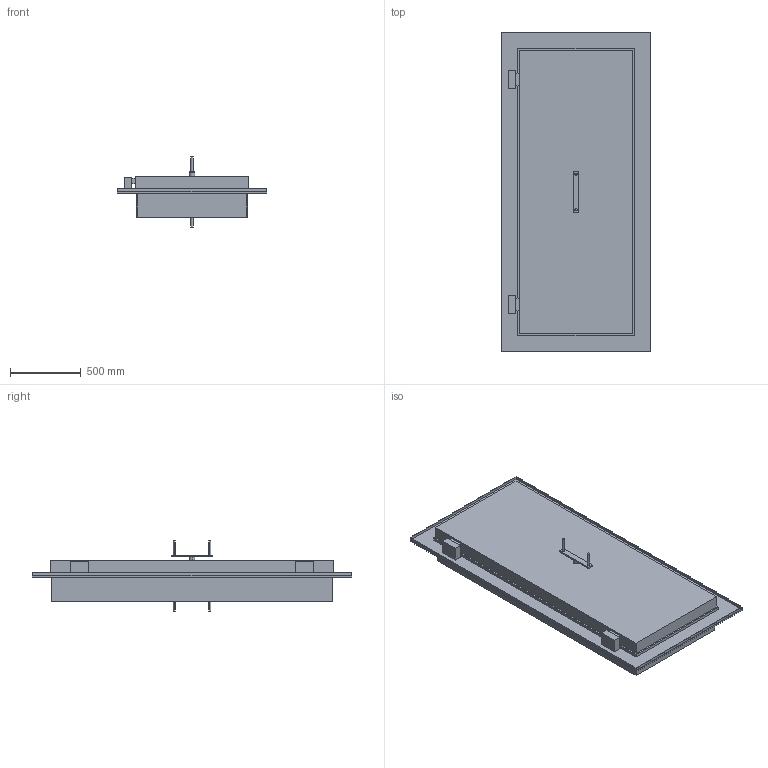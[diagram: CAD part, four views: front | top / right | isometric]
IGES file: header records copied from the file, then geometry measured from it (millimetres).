
Start section:  PTC IGES file: 51458626.igs
Global section: file name: 51458626.igs; native system: Creo Parametric by PTC Inc.; preprocessor: 2019224; author: ka; organization: Unknown; date: 20200228.065646; units: millimetre
Bounding box: 1060 x 2260 x 495 mm (x, y, z)
Surface area: 7943245.1 mm2 (no closed solid volume)
Topology: 0 solids, 0 shells, 79 faces, 368 edges, 368 vertices
Faces by surface type: bspline 67, revolution 12
